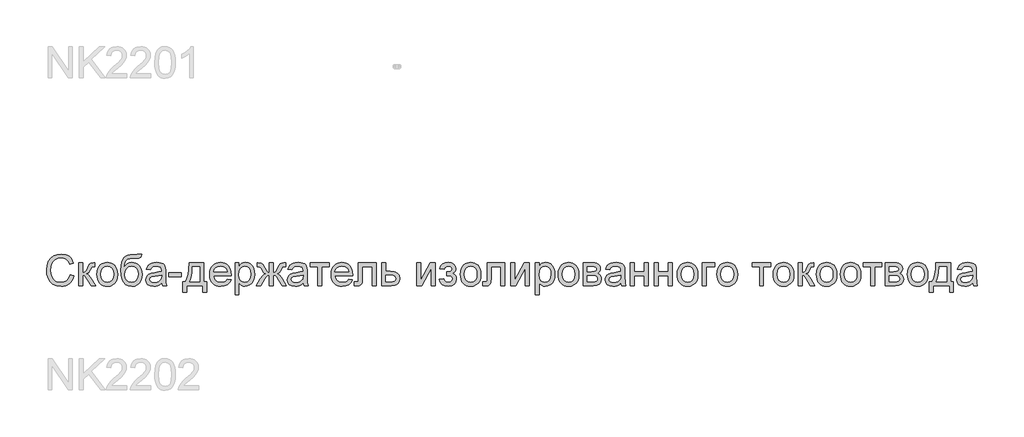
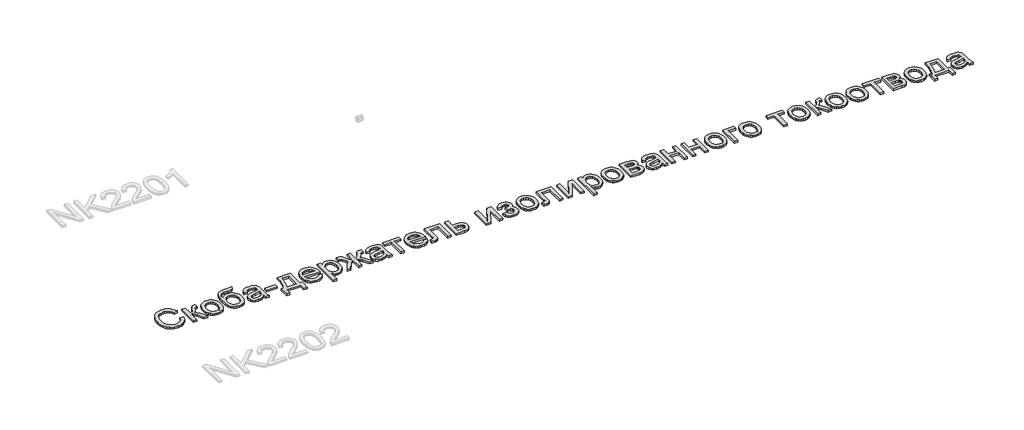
# One storey, part 18 of 124: 1 proxy.
"""IFC4 building model written with IfcOpenShell, lengths in millimetres."""

from ifc_helpers import new_model, si_unit, origin, origin_with_axes, place, context, project, spatial, polyline, outline, extrude, element, save

model = new_model("IFC4")

# Units and contexts
model_context = context("Model", 3, world=origin())
ifc_project = project(units=[si_unit("LENGTHUNIT", "METRE", prefix="MILLI")], contexts=[model_context])

# Site, building, storey
site = spatial("IfcSite", under=ifc_project)
building = spatial("IfcBuilding", under=site)
storey = spatial("IfcBuildingStorey", under=building, Name="Этаж 01", Elevation=0.0)

# Proxy
placement = place(None, origin())
element("IfcBuildingElementProxy", 1, Name="300", ObjectType="300", at=placement, inside=storey, context=model_context, shape_type="SweptSolid", body=[
    extrude(outline(polyline([(1511.7220969, -101441.7459169), (1549.3932132, -101451.4580016), (1541.9390043, -101474.8851869), (1532.0107889, -101495.3555206), (1519.6085672, -101512.8690029), (1504.732339, -101527.4256336), (1487.7177967, -101538.8690629), (1468.9006327, -101547.042941), (1448.2808468, -101551.9472678), (1425.8584392, -101553.5820434), (1382.1632553, -101548.6340306), (1347.4627861, -101533.7899921), (1320.8649178, -101509.5649627), (1301.4775367, -101476.4739772), (1289.6409335, -101437.5704562), (1285.6953991, -101395.9078203), (1290.1559683, -101351.964316), (1303.5376758, -101314.0172882), (1325.141546, -101283.2715504), (1354.268603, -101260.9319163), (1388.8127223, -101247.3294795), (1426.6677796, -101242.7953339), (1467.9717306, -101248.6630517), (1485.9404668, -101255.997699), (1502.1203768, -101266.2662052), (1516.2447462, -101279.1972573), (1528.0468605, -101294.5195424), (1544.6843237, -101332.3378115), (1507.0132074, -101341.3141322), (1493.9533965, -101313.8425442), (1476.1111198, -101294.997789), (1453.2656479, -101284.0992849), (1425.1962516, -101280.4664502), (1392.8410302, -101284.4947581), (1366.261556, -101296.5796816), (1346.0924256, -101315.4520279), (1332.9682355, -101339.8426042), (1325.7669454, -101367.4153598), (1323.3665154, -101395.8342439), (1326.2084038, -101430.6358806), (1334.734069, -101460.7286278), (1349.2654078, -101484.9628543), (1370.124317, -101502.1889287), (1395.1310956, -101512.4804275), (1422.1060429, -101515.9109271), (1453.5507564, -101511.2388258), (1479.7531515, -101497.2225218), (1499.5360058, -101474.0091679), (1511.7220969, -101441.7459169)])), origin_with_axes(), (0.0, 0.0, 1.0), 20.0),
    extrude(outline(polyline([(1596.4821086, -101327.5553456), (1634.1532249, -101327.5553456), (1634.1532249, -101421.7331364), (1649.47551, -101420.0408792), (1659.3899298, -101414.9641076), (1668.1639154, -101401.7203558), (1680.0648979, -101375.5271578), (1697.2449871, -101341.4980732), (1712.4017253, -101330.4248251), (1739.9560867, -101327.5553456), (1747.1665738, -101327.5553456), (1747.1665738, -101365.4471911), (1737.0130308, -101365.2264619), (1718.618931, -101369.1995874), (1705.6694848, -101393.9948339), (1690.4759584, -101420.8134314), (1669.1755909, -101433.9468186), (1681.1133616, -101439.2489178), (1692.9407677, -101448.6069161), (1716.2644862, -101479.4906096), (1756.5843529, -101548.8731539), (1713.7628887, -101548.8731539), (1674.2523624, -101480.9621376), (1654.3867346, -101452.2305538), (1645.0977143, -101447.0158265), (1634.1532249, -101445.277584), (1634.1532249, -101548.8731539), (1596.4821086, -101548.8731539), (1596.4821086, -101327.5553456)])), origin_with_axes(), (0.0, 0.0, 1.0), 20.0),
    extrude(outline(polyline([(1770.7110215, -101438.2142497), (1772.7481681, -101409.5516438), (1778.8596077, -101384.8529663), (1789.0453405, -101364.1182174), (1803.3053663, -101347.3473969), (1817.6619612, -101336.6282353), (1833.5084781, -101328.9716913), (1850.8449171, -101324.3777649), (1869.6712782, -101322.846456), (1890.4543117, -101324.7111579), (1909.2461839, -101330.3052635), (1926.0468947, -101339.6287728), (1940.8564443, -101352.6816859), (1952.9436671, -101369.0225442), (1961.5773977, -101388.2098895), (1966.757636, -101410.2437218), (1968.4843821, -101435.124041), (1965.4309616, -101473.1814334), (1956.2706999, -101502.1521405), (1941.2703115, -101523.8479812), (1920.696511, -101540.0807742), (1896.2599494, -101550.2067261), (1869.6712782, -101553.5820434), (1848.5847421, -101551.7242393), (1829.618126, -101546.1508271), (1812.7714299, -101536.8618067), (1798.0446538, -101523.8571782), (1786.0861897, -101507.3576707), (1777.5444296, -101487.5840135), (1772.4193735, -101464.5362065), (1770.7110215, -101438.2142497)]), holes=[polyline([(1808.3821378, -101438.1406733), (1812.7415395, -101472.2341372), (1825.8197444, -101496.523546), (1845.5014311, -101511.0640818), (1869.6712782, -101515.9109271), (1893.7307607, -101511.0364907), (1913.3756592, -101496.4131814), (1926.4538642, -101471.8018759), (1930.8132658, -101436.963451), (1926.426273, -101403.8632684), (1913.2652947, -101379.9049535), (1893.592805, -101365.3644176), (1869.6712782, -101360.5175724), (1845.5014311, -101365.3460235), (1825.8197444, -101379.8313771), (1812.7415395, -101404.0656035), (1808.3821378, -101438.1406733)])]), origin_with_axes(), (0.0, 0.0, 1.0), 20.0),
    extrude(outline(polyline([(2166.2577427, -101242.7953339), (2199.2199695, -101242.7953339), (2195.6515141, -101260.70199), (2189.5078848, -101272.1891053), (2180.9914166, -101278.9857252), (2170.3044447, -101282.820895), (2124.1720425, -101285.1753397), (2085.8663297, -101287.3458435), (2062.0367735, -101293.8573548), (2047.7813462, -101305.1513321), (2038.1980202, -101321.6692337), (2032.5602286, -101343.5398183), (2030.1414045, -101370.8918446), (2045.2889457, -101349.8489945), (2062.7725375, -101334.8394091), (2082.6105741, -101325.8446943), (2104.8214495, -101322.846456), (2125.3446663, -101324.7525446), (2144.0192761, -101330.4708104), (2160.8452789, -101340.0012533), (2175.8226746, -101353.3438734), (2188.1191303, -101369.9376507), (2196.9023129, -101389.221565), (2202.1722225, -101411.1956165), (2203.928859, -101435.859805), (2200.4431771, -101471.82027), (2189.9861314, -101500.6806125), (2174.7466198, -101523.1122172), (2156.9135401, -101539.7864686), (2134.3255856, -101550.1331497), (2104.8214495, -101553.5820434), (2070.8199561, -101549.1398683), (2045.3349309, -101535.8133431), (2026.5821462, -101515.5614392), (2012.7773743, -101490.3431285), (2004.2793003, -101452.3685095), (2001.4466089, -101393.8476811), (2003.2331358, -101354.1831043), (2008.5927167, -101321.5680661), (2017.5253513, -101296.0025667), (2030.0310399, -101277.486606), (2046.2431396, -101264.3693137), (2066.2950076, -101254.9998191), (2090.1866439, -101249.3781223), (2117.9180486, -101247.5042234), (2159.856596, -101246.6580948), (2166.2577427, -101242.7953339)]), holes=[polyline([(2166.2577427, -101434.6825826), (2162.1742526, -101405.0404908), (2149.9237821, -101381.3029051), (2130.2420954, -101365.7139055), (2103.8649564, -101360.5175724), (2076.3657772, -101366.0082111), (2065.2787336, -101372.8715096), (2055.9667206, -101382.4801275), (2043.329974, -101408.1306996), (2039.1177252, -101441.1573057), (2043.7714324, -101473.1722363), (2057.7325542, -101496.6706988), (2078.5178869, -101511.10087), (2103.6442272, -101515.9109271), (2128.8993261, -101510.3467119), (2148.8937126, -101493.6540664), (2161.9167352, -101467.7827651), (2166.2577427, -101434.6825826)])]), origin_with_axes(), (0.0, 0.0, 1.0), 20.0),
    extrude(outline(polyline([(2392.2844406, -101520.6198167), (2374.285814, -101536.0524664), (2355.7537584, -101546.1508271), (2336.2652098, -101551.7242393), (2315.3971036, -101553.5820434), (2283.9156018, -101549.1122772), (2260.6930509, -101535.7029785), (2246.3732442, -101515.34071), (2241.5999753, -101490.0120347), (2243.4025971, -101474.395444), (2248.8104625, -101460.213593), (2257.1521867, -101448.0734872), (2267.7563852, -101438.5821317), (2294.1335243, -101426.2212967), (2326.727869, -101420.555914), (2365.2451139, -101414.5962256), (2392.0637114, -101407.6064677), (2392.2844406, -101399.2187582), (2389.6908725, -101382.4065511), (2381.9101683, -101371.4068794), (2364.5093499, -101363.2398991), (2340.2659265, -101360.5175724), (2317.8251247, -101362.3293912), (2302.1533518, -101367.7648477), (2291.4663798, -101377.8172232), (2283.9799812, -101393.4797991), (2246.3088649, -101388.7709096), (2252.8479673, -101368.1695179), (2262.6060373, -101351.9827101), (2276.4935826, -101339.6034809), (2295.4211112, -101330.4248251), (2318.5700858, -101324.7410483), (2345.1219688, -101322.846456), (2370.5885999, -101324.5203191), (2390.7761244, -101329.5419084), (2405.9972419, -101337.0926863), (2416.5646523, -101346.3541155), (2423.5728043, -101357.8044426), (2428.1161469, -101371.9219142), (2429.9555569, -101404.884141), (2429.9555569, -101451.7523072), (2431.8685433, -101517.1985141), (2439.373336, -101548.8731539), (2401.7022196, -101548.8731539), (2392.2844406, -101520.6198167)]), holes=[polyline([(2392.2844406, -101445.277584), (2331.510335, -101456.8290787), (2299.0999312, -101462.9359198), (2284.4214396, -101472.8687337), (2279.2710917, -101487.3632843), (2282.0761919, -101498.565291), (2290.4914925, -101507.7439468), (2304.3330526, -101513.869182), (2323.4169311, -101515.9109271), (2343.6504408, -101513.6576499), (2361.5295058, -101506.8978182), (2376.0240564, -101496.9374132), (2386.1040231, -101485.0824159), (2390.5737893, -101472.8687337), (2392.0637114, -101455.9461619), (2392.2844406, -101445.277584)])]), origin_with_axes(), (0.0, 0.0, 1.0), 20.0),
    extrude(outline(polyline([(2462.9177836, -101459.4042527), (2462.9177836, -101421.7331364), (2580.6400221, -101421.7331364), (2580.6400221, -101459.4042527), (2462.9177836, -101459.4042527)])), origin_with_axes(), (0.0, 0.0, 1.0), 20.0),
    extrude(outline(polyline([(2655.9822547, -101327.5553456), (2797.2489409, -101327.5553456), (2797.2489409, -101511.2020376), (2825.5022781, -101511.2020376), (2825.5022781, -101610.0887179), (2787.8311618, -101610.0887179), (2787.8311618, -101548.8731539), (2632.437807, -101548.8731539), (2632.437807, -101610.0887179), (2594.7666907, -101610.0887179), (2594.7666907, -101511.2020376), (2618.3111384, -101511.2020376), (2635.4268482, -101480.2723588), (2647.4106042, -101439.3546839), (2654.2624064, -101388.4490128), (2655.9822547, -101327.5553456)]), holes=[polyline([(2688.9444815, -101365.2264619), (2685.8542727, -101411.349667), (2680.1153136, -101451.0533314), (2671.7276041, -101484.3374549), (2660.6911443, -101511.2020376), (2759.5778246, -101511.2020376), (2759.5778246, -101365.2264619), (2688.9444815, -101365.2264619)])]), origin_with_axes(), (0.0, 0.0, 1.0), 20.0),
    extrude(outline(polyline([(3022.8341803, -101482.9487003), (3059.7695326, -101487.6575899), (3046.4614014, -101515.4878628), (3025.2254133, -101536.2915897), (2996.5398147, -101549.25943), (2960.8828523, -101553.5820434), (2937.50855, -101551.7173416), (2916.6818306, -101546.123236), (2898.402694, -101536.7997267), (2882.6711401, -101523.7468136), (2870.020598, -101507.3277803), (2860.9844965, -101487.9059102), (2855.5628356, -101465.4812034), (2853.7556153, -101440.0536597), (2855.5812297, -101413.7638926), (2861.0580729, -101390.5919255), (2870.1861449, -101370.5377582), (2882.9654457, -101353.6013908), (2898.6556128, -101340.1461069), (2916.5162837, -101330.5351897), (2936.5474583, -101324.7686395), (2958.7491367, -101322.846456), (2980.2357445, -101324.7640409), (2999.6668117, -101330.5167956), (3017.0423381, -101340.1047201), (3032.362324, -101353.5278144), (3044.8680126, -101370.4273936), (3053.8006472, -101390.4447727), (3059.1602281, -101413.5799516), (3060.946755, -101439.8329305), (3060.7260258, -101449.9864736), (2891.4267316, -101449.9864736), (2897.94744, -101478.1846285), (2913.0949811, -101498.9147789), (2934.9563687, -101511.6618901), (2961.6186163, -101515.9109271), (2981.668185, -101513.9427584), (2998.5539686, -101508.0382524), (3012.275967, -101497.8295271), (3022.8341803, -101482.9487003)]), holes=[polyline([(2891.4267316, -101412.3153573), (3023.2756387, -101412.3153573), (3018.1804731, -101392.4129413), (3008.1924769, -101378.1759081), (2986.2299218, -101364.9321563), (2958.6019839, -101360.5175724), (2933.2089292, -101364.0400425), (2912.2120644, -101374.6074528), (2897.6163462, -101391.0793691), (2891.4267316, -101412.3153573)])]), origin_with_axes(), (0.0, 0.0, 1.0), 20.0),
    extrude(outline(polyline([(3098.6178713, -101633.6331656), (3098.6178713, -101327.5553456), (3136.2889876, -101327.5553456), (3136.2889876, -101364.4906979), (3148.5762463, -101346.2713421), (3162.3350329, -101333.2575165), (3178.3746879, -101325.4492212), (3197.5045516, -101322.846456), (3222.9803798, -101326.4884878), (3245.2556346, -101337.4145831), (3263.3922169, -101354.9625542), (3276.4520278, -101378.4702137), (3284.3430966, -101406.2269103), (3286.9734528, -101436.5219926), (3284.0028057, -101468.7392583), (3275.0908644, -101497.5536156), (3260.5227374, -101521.5027334), (3240.5835332, -101539.124281), (3217.3609823, -101549.9676028), (3192.9428149, -101553.5820434), (3175.62477, -101551.1632193), (3160.1645291, -101543.906747), (3146.9299743, -101532.9530605), (3136.2889876, -101519.4425943), (3136.2889876, -101633.6331656), (3098.6178713, -101633.6331656)]), holes=[polyline([(3136.2889876, -101439.9800833), (3140.3632807, -101473.7516505), (3152.58616, -101497.3696746), (3170.6215748, -101511.275614), (3192.1334745, -101515.9109271), (3213.994862, -101511.1100671), (3232.4901294, -101496.707487), (3245.0992847, -101472.2249402), (3249.3023365, -101437.1841801), (3245.2004523, -101403.596554), (3232.8947995, -101379.6474361), (3214.8869759, -101365.3000383), (3193.6785789, -101360.5175724), (3172.3874084, -101365.6035409), (3153.689806, -101380.8614467), (3140.6391922, -101405.813043), (3136.2889876, -101439.9800833)])]), origin_with_axes(), (0.0, 0.0, 1.0), 20.0),
    extrude(outline(polyline([(3465.9112553, -101327.5553456), (3465.9112553, -101421.7331364), (3479.2009924, -101419.7925588), (3487.8738104, -101413.9708263), (3508.6591431, -101373.6877478), (3521.6269835, -101348.5798016), (3533.4543896, -101335.0601383), (3547.8201815, -101329.4315438), (3568.6974847, -101327.5553456), (3583.6334938, -101327.5553456), (3583.6334938, -101365.4471911), (3573.2592215, -101365.2264619), (3553.8350521, -101369.126011), (3540.3705711, -101393.5533755), (3524.7355863, -101420.3351848), (3502.4051492, -101433.9468186), (3514.7981739, -101439.2489178), (3527.0348488, -101448.6069161), (3551.039149, -101479.4906096), (3593.0512728, -101548.8731539), (3549.8619266, -101548.8731539), (3508.5119903, -101480.4471028), (3497.208816, -101462.4852644), (3487.432352, -101452.0098246), (3477.5455234, -101446.9606442), (3465.9112553, -101445.277584), (3465.9112553, -101548.8731539), (3428.240139, -101548.8731539), (3428.240139, -101445.277584), (3416.6978414, -101446.923856), (3406.7926187, -101451.8626718), (3396.9425782, -101462.2645352), (3385.5658275, -101480.29995), (3344.2158913, -101548.8731539), (3301.1001215, -101548.8731539), (3342.9650925, -101479.4906096), (3367.1533337, -101448.6069161), (3379.4543879, -101439.2489178), (3391.8933979, -101433.9468186), (3377.5092119, -101426.7363315), (3368.2017974, -101418.9372332), (3347.8947112, -101380.3096237), (3337.9618974, -101367.5809067), (3321.7015132, -101365.0057327), (3310.5179005, -101365.2264619), (3310.5179005, -101327.5553456), (3316.1832833, -101327.5553456), (3349.2190864, -101329.9097904), (3366.3623874, -101339.9161806), (3385.5658275, -101373.6877478), (3406.1304311, -101413.7133089), (3414.8032491, -101419.7281795), (3428.240139, -101421.7331364), (3428.240139, -101327.5553456), (3465.9112553, -101327.5553456)])), origin_with_axes(), (0.0, 0.0, 1.0), 20.0),
    extrude(outline(polyline([(3753.1535171, -101520.6198167), (3735.1548905, -101536.0524664), (3716.622835, -101546.1508271), (3697.1342863, -101551.7242393), (3676.2661801, -101553.5820434), (3644.7846784, -101549.1122772), (3621.5621275, -101535.7029785), (3607.2423208, -101515.34071), (3602.4690519, -101490.0120347), (3604.2716737, -101474.395444), (3609.679539, -101460.213593), (3618.0212633, -101448.0734872), (3628.6254618, -101438.5821317), (3655.0026008, -101426.2212967), (3687.5969456, -101420.555914), (3726.1141905, -101414.5962256), (3752.9327879, -101407.6064677), (3753.1535171, -101399.2187582), (3750.5599491, -101382.4065511), (3742.7792449, -101371.4068794), (3725.3784265, -101363.2398991), (3701.135003, -101360.5175724), (3678.6942013, -101362.3293912), (3663.0224283, -101367.7648477), (3652.3354564, -101377.8172232), (3644.8490577, -101393.4797991), (3607.1779414, -101388.7709096), (3613.7170439, -101368.1695179), (3623.4751138, -101351.9827101), (3637.3626591, -101339.6034809), (3656.2901878, -101330.4248251), (3679.4391623, -101324.7410483), (3705.9910453, -101322.846456), (3731.4576765, -101324.5203191), (3751.6452009, -101329.5419084), (3766.8663185, -101337.0926863), (3777.4337288, -101346.3541155), (3784.4418808, -101357.8044426), (3788.9852235, -101371.9219142), (3790.8246334, -101404.884141), (3790.8246334, -101451.7523072), (3792.7376198, -101517.1985141), (3800.2424125, -101548.8731539), (3762.5712962, -101548.8731539), (3753.1535171, -101520.6198167)]), holes=[polyline([(3753.1535171, -101445.277584), (3692.3794115, -101456.8290787), (3659.9690078, -101462.9359198), (3645.2905161, -101472.8687337), (3640.1401682, -101487.3632843), (3642.9452684, -101498.565291), (3651.3605691, -101507.7439468), (3665.2021291, -101513.869182), (3684.2860076, -101515.9109271), (3704.5195174, -101513.6576499), (3722.3985823, -101506.8978182), (3736.8931329, -101496.9374132), (3746.9730996, -101485.0824159), (3751.4428659, -101472.8687337), (3752.9327879, -101455.9461619), (3753.1535171, -101445.277584)])]), origin_with_axes(), (0.0, 0.0, 1.0), 20.0),
    extrude(outline(polyline([(3823.7868602, -101327.5553456), (4002.7246627, -101327.5553456), (4002.7246627, -101365.2264619), (3932.0913196, -101365.2264619), (3932.0913196, -101548.8731539), (3894.4202033, -101548.8731539), (3894.4202033, -101365.2264619), (3823.7868602, -101365.2264619), (3823.7868602, -101327.5553456)])), origin_with_axes(), (0.0, 0.0, 1.0), 20.0),
    extrude(outline(polyline([(4190.6387858, -101482.9487003), (4227.5741381, -101487.6575899), (4214.2660069, -101515.4878628), (4193.0300188, -101536.2915897), (4164.3444202, -101549.25943), (4128.6874578, -101553.5820434), (4105.3131555, -101551.7173416), (4084.4864361, -101546.123236), (4066.2072994, -101536.7997267), (4050.4757456, -101523.7468136), (4037.8252035, -101507.3277803), (4028.789102, -101487.9059102), (4023.3674411, -101465.4812034), (4021.5602208, -101440.0536597), (4023.3858352, -101413.7638926), (4028.8626784, -101390.5919255), (4037.9907504, -101370.5377582), (4050.7700512, -101353.6013908), (4066.4602183, -101340.1461069), (4084.3208892, -101330.5351897), (4104.3520638, -101324.7686395), (4126.5537422, -101322.846456), (4148.04035, -101324.7640409), (4167.4714171, -101330.5167956), (4184.8469436, -101340.1047201), (4200.1669295, -101353.5278144), (4212.672618, -101370.4273936), (4221.6052527, -101390.4447727), (4226.9648336, -101413.5799516), (4228.7513605, -101439.8329305), (4228.5306313, -101449.9864736), (4059.2313371, -101449.9864736), (4065.7520455, -101478.1846285), (4080.8995866, -101498.9147789), (4102.7609742, -101511.6618901), (4129.4232218, -101515.9109271), (4149.4727905, -101513.9427584), (4166.3585741, -101508.0382524), (4180.0805725, -101497.8295271), (4190.6387858, -101482.9487003)]), holes=[polyline([(4059.2313371, -101412.3153573), (4191.0802442, -101412.3153573), (4185.9850786, -101392.4129413), (4175.9970824, -101378.1759081), (4154.0345273, -101364.9321563), (4126.4065894, -101360.5175724), (4101.0135347, -101364.0400425), (4080.0166698, -101374.6074528), (4065.4209517, -101391.0793691), (4059.2313371, -101412.3153573)])]), origin_with_axes(), (0.0, 0.0, 1.0), 20.0),
    extrude(outline(polyline([(4285.258035, -101327.5553456), (4454.7780583, -101327.5553456), (4454.7780583, -101548.6524247), (4417.106942, -101548.6524247), (4417.106942, -101365.2264619), (4322.9291513, -101365.2264619), (4322.9291513, -101470.8085945), (4320.3907655, -101519.5161707), (4315.6358907, -101530.5434335), (4306.4480379, -101540.0807742), (4292.5053103, -101546.675059), (4273.4858111, -101548.8731539), (4242.8780291, -101546.9601675), (4242.8780291, -101511.2020376), (4259.7270245, -101511.2020376), (4276.7599609, -101508.884381), (4283.5657778, -101501.5267411), (4285.258035, -101468.6748789), (4285.258035, -101327.5553456)])), origin_with_axes(), (0.0, 0.0, 1.0), 20.0),
    extrude(outline(polyline([(4511.2847328, -101327.5553456), (4548.9558491, -101327.5553456), (4548.9558491, -101407.6064677), (4592.3659245, -101407.6064677), (4630.0002526, -101412.3245543), (4645.1477938, -101418.2221626), (4657.8489197, -101426.4788141), (4667.8920981, -101436.8094004), (4675.065797, -101448.9288128), (4680.8047562, -101478.5341164), (4675.9211227, -101505.4906696), (4661.2702222, -101528.234974), (4650.0383251, -101537.2641777), (4635.8771675, -101543.7136089), (4598.7670712, -101548.8731539), (4511.2847328, -101548.8731539), (4511.2847328, -101327.5553456)]), holes=[polyline([(4548.9558491, -101511.2020376), (4584.1253678, -101511.2020376), (4611.4130148, -101509.2246719), (4629.5587942, -101503.2925747), (4639.7399285, -101493.1666228), (4643.1336399, -101478.6076928), (4640.6228452, -101466.3020401), (4633.0904614, -101455.4311271), (4616.9496389, -101447.8159698), (4588.6135282, -101445.277584), (4548.9558491, -101445.277584), (4548.9558491, -101511.2020376)])]), origin_with_axes(), (0.0, 0.0, 1.0), 20.0),
    extrude(outline(polyline([(4845.61589, -101327.5553456), (4883.2870063, -101327.5553456), (4883.2870063, -101496.339605), (4975.8461163, -101327.5553456), (5024.5536925, -101327.5553456), (5024.5536925, -101548.8731539), (4986.8825762, -101548.8731539), (4986.8825762, -101381.1189641), (4894.9120774, -101548.8731539), (4845.61589, -101548.8731539), (4845.61589, -101327.5553456)])), origin_with_axes(), (0.0, 0.0, 1.0), 20.0),
    extrude(outline(polyline([(5132.8581518, -101449.9864736), (5132.8581518, -101412.3153573), (5162.5830171, -101410.8438293), (5177.5926025, -101403.0079428), (5182.8901032, -101395.6594999), (5184.6559368, -101386.637194), (5182.2922949, -101375.9226309), (5175.2013695, -101367.6176949), (5164.3764418, -101362.292603), (5150.8107932, -101360.5175724), (5137.0979918, -101362.2834059), (5125.6108765, -101367.5809067), (5116.3494473, -101376.4100745), (5109.3137041, -101388.7709096), (5066.9336983, -101384.06202), (5078.1724933, -101357.2802108), (5095.2606119, -101338.150347), (5118.1980543, -101326.6724288), (5146.9848205, -101322.846456), (5178.4755192, -101327.5093603), (5202.3142725, -101341.4980732), (5217.3238579, -101361.9615092), (5222.3270531, -101386.0485828), (5220.5474239, -101398.4094179), (5215.2085365, -101409.4458777), (5206.3103907, -101419.1579624), (5193.8529866, -101427.5456719), (5208.3935225, -101438.0119146), (5218.7585977, -101451.0165432), (5224.9666064, -101466.5963457), (5227.0359426, -101484.7881103), (5221.7844271, -101512.5172157), (5206.0298807, -101534.4889679), (5180.8391611, -101548.8087745), (5147.2791261, -101553.5820434), (5114.454855, -101549.1674595), (5089.3377118, -101535.9237077), (5071.9276964, -101513.8507879), (5062.2248088, -101482.9487003), (5104.6048146, -101478.2398108), (5110.950779, -101494.1691012), (5121.6009628, -101506.0516896), (5135.3229612, -101513.4461177), (5150.8843696, -101515.9109271), (5166.0411078, -101513.5472853), (5178.4019428, -101506.4563598), (5186.6241054, -101495.6866144), (5189.3648263, -101482.2865128), (5187.6633721, -101471.6731172), (5182.5590094, -101462.4944614), (5168.0644588, -101451.89946), (5140.2157917, -101449.7657444), (5132.8581518, -101449.9864736)])), origin_with_axes(), (0.0, 0.0, 1.0), 20.0),
    extrude(outline(polyline([(5264.7070589, -101438.2142497), (5266.7442055, -101409.5516438), (5272.8556451, -101384.8529663), (5283.0413778, -101364.1182174), (5297.3014037, -101347.3473969), (5311.6579985, -101336.6282353), (5327.5045155, -101328.9716913), (5344.8409545, -101324.3777649), (5363.6673156, -101322.846456), (5384.4503491, -101324.7111579), (5403.2422212, -101330.3052635), (5420.0429321, -101339.6287728), (5434.8524817, -101352.6816859), (5446.9397045, -101369.0225442), (5455.5734351, -101388.2098895), (5460.7536734, -101410.2437218), (5462.4804195, -101435.124041), (5459.426999, -101473.1814334), (5450.2667373, -101502.1521405), (5435.2663489, -101523.8479812), (5414.6925483, -101540.0807742), (5390.2559868, -101550.2067261), (5363.6673156, -101553.5820434), (5342.5807795, -101551.7242393), (5323.6141634, -101546.1508271), (5306.7674673, -101536.8618067), (5292.0406912, -101523.8571782), (5280.082227, -101507.3576707), (5271.540467, -101487.5840135), (5266.4154109, -101464.5362065), (5264.7070589, -101438.2142497)]), holes=[polyline([(5302.3781752, -101438.1406733), (5306.7375769, -101472.2341372), (5319.8157818, -101496.523546), (5339.4974685, -101511.0640818), (5363.6673156, -101515.9109271), (5387.7267981, -101511.0364907), (5407.3716966, -101496.4131814), (5420.4499016, -101471.8018759), (5424.8093032, -101436.963451), (5420.4223104, -101403.8632684), (5407.261332, -101379.9049535), (5387.5888424, -101365.3644176), (5363.6673156, -101360.5175724), (5339.4974685, -101365.3460235), (5319.8157818, -101379.8313771), (5306.7375769, -101404.0656035), (5302.3781752, -101438.1406733)])]), origin_with_axes(), (0.0, 0.0, 1.0), 20.0),
    extrude(outline(polyline([(5523.6959835, -101327.5553456), (5693.2160069, -101327.5553456), (5693.2160069, -101548.6524247), (5655.5448906, -101548.6524247), (5655.5448906, -101365.2264619), (5561.3670998, -101365.2264619), (5561.3670998, -101470.8085945), (5558.8287141, -101519.5161707), (5554.0738393, -101530.5434335), (5544.8859864, -101540.0807742), (5530.9432588, -101546.675059), (5511.9237597, -101548.8731539), (5481.3159777, -101546.9601675), (5481.3159777, -101511.2020376), (5498.1649731, -101511.2020376), (5515.1979094, -101508.884381), (5522.0037263, -101501.5267411), (5523.6959835, -101468.6748789), (5523.6959835, -101327.5553456)])), origin_with_axes(), (0.0, 0.0, 1.0), 20.0),
    extrude(outline(polyline([(5749.7226814, -101327.5553456), (5787.3937977, -101327.5553456), (5787.3937977, -101496.339605), (5879.9529076, -101327.5553456), (5928.6604838, -101327.5553456), (5928.6604838, -101548.8731539), (5890.9893675, -101548.8731539), (5890.9893675, -101381.1189641), (5799.0188687, -101548.8731539), (5749.7226814, -101548.8731539), (5749.7226814, -101327.5553456)])), origin_with_axes(), (0.0, 0.0, 1.0), 20.0),
    extrude(outline(polyline([(5985.1671583, -101633.6331656), (5985.1671583, -101327.5553456), (6022.8382746, -101327.5553456), (6022.8382746, -101364.4906979), (6035.1255332, -101346.2713421), (6048.8843198, -101333.2575165), (6064.9239748, -101325.4492212), (6084.0538386, -101322.846456), (6109.5296667, -101326.4884878), (6131.8049215, -101337.4145831), (6149.9415039, -101354.9625542), (6163.0013147, -101378.4702137), (6170.8923835, -101406.2269103), (6173.5227398, -101436.5219926), (6170.5520927, -101468.7392583), (6161.6401514, -101497.5536156), (6147.0720243, -101521.5027334), (6127.1328202, -101539.124281), (6103.9102693, -101549.9676028), (6079.4921018, -101553.5820434), (6062.1740569, -101551.1632193), (6046.7138161, -101543.906747), (6033.4792613, -101532.9530605), (6022.8382746, -101519.4425943), (6022.8382746, -101633.6331656), (5985.1671583, -101633.6331656)]), holes=[polyline([(6022.8382746, -101439.9800833), (6026.9125677, -101473.7516505), (6039.135447, -101497.3696746), (6057.1708618, -101511.275614), (6078.6827614, -101515.9109271), (6100.544149, -101511.1100671), (6119.0394163, -101496.707487), (6131.6485717, -101472.2249402), (6135.8516235, -101437.1841801), (6131.7497392, -101403.596554), (6119.4440865, -101379.6474361), (6101.4362628, -101365.3000383), (6080.2278658, -101360.5175724), (6058.9366953, -101365.6035409), (6040.2390929, -101380.8614467), (6027.1884792, -101405.813043), (6022.8382746, -101439.9800833)])]), origin_with_axes(), (0.0, 0.0, 1.0), 20.0),
    extrude(outline(polyline([(6206.4849666, -101438.2142497), (6208.5221131, -101409.5516438), (6214.6335528, -101384.8529663), (6224.8192855, -101364.1182174), (6239.0793113, -101347.3473969), (6253.4359062, -101336.6282353), (6269.2824231, -101328.9716913), (6286.6188622, -101324.3777649), (6305.4452233, -101322.846456), (6326.2282567, -101324.7111579), (6345.0201289, -101330.3052635), (6361.8208398, -101339.6287728), (6376.6303893, -101352.6816859), (6388.7176121, -101369.0225442), (6397.3513427, -101388.2098895), (6402.5315811, -101410.2437218), (6404.2583272, -101435.124041), (6401.2049066, -101473.1814334), (6392.0446449, -101502.1521405), (6377.0442566, -101523.8479812), (6356.470456, -101540.0807742), (6332.0338945, -101550.2067261), (6305.4452233, -101553.5820434), (6284.3586872, -101551.7242393), (6265.392071, -101546.1508271), (6248.5453749, -101536.8618067), (6233.8185988, -101523.8571782), (6221.8601347, -101507.3576707), (6213.3183746, -101487.5840135), (6208.1933186, -101464.5362065), (6206.4849666, -101438.2142497)]), holes=[polyline([(6244.1560829, -101438.1406733), (6248.5154845, -101472.2341372), (6261.5936894, -101496.523546), (6281.2753762, -101511.0640818), (6305.4452233, -101515.9109271), (6329.5047058, -101511.0364907), (6349.1496043, -101496.4131814), (6362.2278092, -101471.8018759), (6366.5872109, -101436.963451), (6362.2002181, -101403.8632684), (6349.0392397, -101379.9049535), (6329.36675, -101365.3644176), (6305.4452233, -101360.5175724), (6281.2753762, -101365.3460235), (6261.5936894, -101379.8313771), (6248.5154845, -101404.0656035), (6244.1560829, -101438.1406733)])]), origin_with_axes(), (0.0, 0.0, 1.0), 20.0),
    extrude(outline(polyline([(6446.638333, -101327.5553456), (6529.6325111, -101327.5553456), (6556.3131528, -101328.8153414), (6575.1395139, -101332.5953289), (6588.990271, -101339.7322396), (6600.7441008, -101351.0630051), (6608.7731253, -101365.8242701), (6611.4494669, -101383.2526797), (6609.8307861, -101397.2965748), (6604.9747437, -101409.4090895), (6596.8629457, -101419.645406), (6585.476998, -101428.0607067), (6599.4197256, -101435.8873961), (6610.7872793, -101448.4781574), (6618.3472543, -101464.8397091), (6620.8672459, -101483.9787699), (6614.4844933, -101512.6919597), (6599.309361, -101532.9070753), (6575.2866667, -101544.8816342), (6542.3612282, -101548.8731539), (6446.638333, -101548.8731539), (6446.638333, -101327.5553456)]), holes=[polyline([(6484.3094493, -101412.3153573), (6521.5391072, -101412.3153573), (6552.2572538, -101410.4023709), (6567.1932628, -101402.7504254), (6572.1320786, -101396.4228551), (6573.7783505, -101388.9180624), (6570.8904769, -101377.6792674), (6562.2268559, -101370.4503862), (6546.573477, -101366.532443), (6522.7163296, -101365.2264619), (6484.3094493, -101365.2264619), (6484.3094493, -101412.3153573)]), polyline([(6484.3094493, -101511.2020376), (6530.5154279, -101511.2020376), (6555.6969505, -101509.5005834), (6571.4974822, -101504.3962207), (6579.9771622, -101495.1163973), (6583.1961296, -101480.8885612), (6581.5866459, -101471.4615851), (6576.7581947, -101462.7519788), (6569.3453725, -101455.9369649), (6559.9827757, -101452.1937656), (6526.836608, -101449.9864736), (6484.3094493, -101449.9864736), (6484.3094493, -101511.2020376)])]), origin_with_axes(), (0.0, 0.0, 1.0), 20.0),
    extrude(outline(polyline([(6809.2228275, -101520.6198167), (6791.2242008, -101536.0524664), (6772.6921453, -101546.1508271), (6753.2035966, -101551.7242393), (6732.3354905, -101553.5820434), (6700.8539887, -101549.1122772), (6677.6314378, -101535.7029785), (6663.3116311, -101515.34071), (6658.5383622, -101490.0120347), (6660.340984, -101474.395444), (6665.7488493, -101460.213593), (6674.0905736, -101448.0734872), (6684.6947721, -101438.5821317), (6711.0719111, -101426.2212967), (6743.6662559, -101420.555914), (6782.1835008, -101414.5962256), (6809.0020983, -101407.6064677), (6809.2228275, -101399.2187582), (6806.6292594, -101382.4065511), (6798.8485552, -101371.4068794), (6781.4477368, -101363.2398991), (6757.2043133, -101360.5175724), (6734.7635116, -101362.3293912), (6719.0917386, -101367.7648477), (6708.4047667, -101377.8172232), (6700.9183681, -101393.4797991), (6663.2472518, -101388.7709096), (6669.7863542, -101368.1695179), (6679.5444242, -101351.9827101), (6693.4319695, -101339.6034809), (6712.3594981, -101330.4248251), (6735.5084727, -101324.7410483), (6762.0603557, -101322.846456), (6787.5269868, -101324.5203191), (6807.7145113, -101329.5419084), (6822.9356288, -101337.0926863), (6833.5030391, -101346.3541155), (6840.5111912, -101357.8044426), (6845.0545338, -101371.9219142), (6846.8939438, -101404.884141), (6846.8939438, -101451.7523072), (6848.8069301, -101517.1985141), (6856.3117228, -101548.8731539), (6818.6406065, -101548.8731539), (6809.2228275, -101520.6198167)]), holes=[polyline([(6809.2228275, -101445.277584), (6748.4487219, -101456.8290787), (6716.0383181, -101462.9359198), (6701.3598265, -101472.8687337), (6696.2094785, -101487.3632843), (6699.0145788, -101498.565291), (6707.4298794, -101507.7439468), (6721.2714395, -101513.869182), (6740.355318, -101515.9109271), (6760.5888277, -101513.6576499), (6778.4678927, -101506.8978182), (6792.9624433, -101496.9374132), (6803.0424099, -101485.0824159), (6807.5121762, -101472.8687337), (6809.0020983, -101455.9461619), (6809.2228275, -101445.277584)])]), origin_with_axes(), (0.0, 0.0, 1.0), 20.0),
    extrude(outline(polyline([(6898.6917287, -101327.5553456), (6936.362845, -101327.5553456), (6936.362845, -101412.3153573), (7035.2495253, -101412.3153573), (7035.2495253, -101327.5553456), (7072.9206416, -101327.5553456), (7072.9206416, -101548.8731539), (7035.2495253, -101548.8731539), (7035.2495253, -101449.9864736), (6936.362845, -101449.9864736), (6936.362845, -101548.8731539), (6898.6917287, -101548.8731539), (6898.6917287, -101327.5553456)])), origin_with_axes(), (0.0, 0.0, 1.0), 20.0),
    extrude(outline(polyline([(7129.4273161, -101327.5553456), (7167.0984324, -101327.5553456), (7167.0984324, -101412.3153573), (7265.9851127, -101412.3153573), (7265.9851127, -101327.5553456), (7303.656229, -101327.5553456), (7303.656229, -101548.8731539), (7265.9851127, -101548.8731539), (7265.9851127, -101449.9864736), (7167.0984324, -101449.9864736), (7167.0984324, -101548.8731539), (7129.4273161, -101548.8731539), (7129.4273161, -101327.5553456)])), origin_with_axes(), (0.0, 0.0, 1.0), 20.0),
    extrude(outline(polyline([(7350.7451244, -101438.2142497), (7352.7822709, -101409.5516438), (7358.8937106, -101384.8529663), (7369.0794433, -101364.1182174), (7383.3394691, -101347.3473969), (7397.696064, -101336.6282353), (7413.5425809, -101328.9716913), (7430.87902, -101324.3777649), (7449.7053811, -101322.846456), (7470.4884145, -101324.7111579), (7489.2802867, -101330.3052635), (7506.0809976, -101339.6287728), (7520.8905471, -101352.6816859), (7532.9777699, -101369.0225442), (7541.6115005, -101388.2098895), (7546.7917389, -101410.2437218), (7548.518485, -101435.124041), (7545.4650644, -101473.1814334), (7536.3048027, -101502.1521405), (7521.3044144, -101523.8479812), (7500.7306138, -101540.0807742), (7476.2940523, -101550.2067261), (7449.7053811, -101553.5820434), (7428.618845, -101551.7242393), (7409.6522288, -101546.1508271), (7392.8055327, -101536.8618067), (7378.0787566, -101523.8571782), (7366.1202925, -101507.3576707), (7357.5785324, -101487.5840135), (7352.4534764, -101464.5362065), (7350.7451244, -101438.2142497)]), holes=[polyline([(7388.4162407, -101438.1406733), (7392.7756423, -101472.2341372), (7405.8538472, -101496.523546), (7425.535534, -101511.0640818), (7449.7053811, -101515.9109271), (7473.7648635, -101511.0364907), (7493.4097621, -101496.4131814), (7506.487967, -101471.8018759), (7510.8473687, -101436.963451), (7506.4603759, -101403.8632684), (7493.2993975, -101379.9049535), (7473.6269078, -101365.3644176), (7449.7053811, -101360.5175724), (7425.535534, -101365.3460235), (7405.8538472, -101379.8313771), (7392.7756423, -101404.0656035), (7388.4162407, -101438.1406733)])]), origin_with_axes(), (0.0, 0.0, 1.0), 20.0),
    extrude(outline(polyline([(7590.8984908, -101327.5553456), (7713.3296188, -101327.5553456), (7713.3296188, -101365.2264619), (7628.5696071, -101365.2264619), (7628.5696071, -101548.8731539), (7590.8984908, -101548.8731539), (7590.8984908, -101327.5553456)])), origin_with_axes(), (0.0, 0.0, 1.0), 20.0),
    extrude(outline(polyline([(7732.165177, -101438.2142497), (7734.2023235, -101409.5516438), (7740.3137632, -101384.8529663), (7750.4994959, -101364.1182174), (7764.7595217, -101347.3473969), (7779.1161166, -101336.6282353), (7794.9626335, -101328.9716913), (7812.2990726, -101324.3777649), (7831.1254337, -101322.846456), (7851.9084671, -101324.7111579), (7870.7003393, -101330.3052635), (7887.5010502, -101339.6287728), (7902.3105997, -101352.6816859), (7914.3978225, -101369.0225442), (7923.0315531, -101388.2098895), (7928.2117915, -101410.2437218), (7929.9385376, -101435.124041), (7926.885117, -101473.1814334), (7917.7248553, -101502.1521405), (7902.724467, -101523.8479812), (7882.1506664, -101540.0807742), (7857.7141049, -101550.2067261), (7831.1254337, -101553.5820434), (7810.0388976, -101551.7242393), (7791.0722814, -101546.1508271), (7774.2255853, -101536.8618067), (7759.4988092, -101523.8571782), (7747.5403451, -101507.3576707), (7738.998585, -101487.5840135), (7733.873529, -101464.5362065), (7732.165177, -101438.2142497)]), holes=[polyline([(7769.8362933, -101438.1406733), (7774.1956949, -101472.2341372), (7787.2738998, -101496.523546), (7806.9555866, -101511.0640818), (7831.1254337, -101515.9109271), (7855.1849161, -101511.0364907), (7874.8298147, -101496.4131814), (7887.9080196, -101471.8018759), (7892.2674213, -101436.963451), (7887.8804285, -101403.8632684), (7874.7194501, -101379.9049535), (7855.0469604, -101365.3644176), (7831.1254337, -101360.5175724), (7806.9555866, -101365.3460235), (7787.2738998, -101379.8313771), (7774.1956949, -101404.0656035), (7769.8362933, -101438.1406733)])]), origin_with_axes(), (0.0, 0.0, 1.0), 20.0),
    extrude(outline(polyline([(8071.2052237, -101327.5553456), (8250.1430262, -101327.5553456), (8250.1430262, -101365.2264619), (8179.5096831, -101365.2264619), (8179.5096831, -101548.8731539), (8141.8385668, -101548.8731539), (8141.8385668, -101365.2264619), (8071.2052237, -101365.2264619), (8071.2052237, -101327.5553456)])), origin_with_axes(), (0.0, 0.0, 1.0), 20.0),
    extrude(outline(polyline([(8273.6874739, -101438.2142497), (8275.7246204, -101409.5516438), (8281.8360601, -101384.8529663), (8292.0217928, -101364.1182174), (8306.2818186, -101347.3473969), (8320.6384135, -101336.6282353), (8336.4849304, -101328.9716913), (8353.8213695, -101324.3777649), (8372.6477306, -101322.846456), (8393.430764, -101324.7111579), (8412.2226362, -101330.3052635), (8429.0233471, -101339.6287728), (8443.8328966, -101352.6816859), (8455.9201194, -101369.0225442), (8464.55385, -101388.2098895), (8469.7340884, -101410.2437218), (8471.4608345, -101435.124041), (8468.4074139, -101473.1814334), (8459.2471522, -101502.1521405), (8444.2467639, -101523.8479812), (8423.6729633, -101540.0807742), (8399.2364018, -101550.2067261), (8372.6477306, -101553.5820434), (8351.5611945, -101551.7242393), (8332.5945783, -101546.1508271), (8315.7478822, -101536.8618067), (8301.0211061, -101523.8571782), (8289.062642, -101507.3576707), (8280.5208819, -101487.5840135), (8275.3958259, -101464.5362065), (8273.6874739, -101438.2142497)]), holes=[polyline([(8311.3585902, -101438.1406733), (8315.7179918, -101472.2341372), (8328.7961967, -101496.523546), (8348.4778835, -101511.0640818), (8372.6477306, -101515.9109271), (8396.707213, -101511.0364907), (8416.3521116, -101496.4131814), (8429.4303165, -101471.8018759), (8433.7897182, -101436.963451), (8429.4027254, -101403.8632684), (8416.241747, -101379.9049535), (8396.5692573, -101365.3644176), (8372.6477306, -101360.5175724), (8348.4778835, -101365.3460235), (8328.7961967, -101379.8313771), (8315.7179918, -101404.0656035), (8311.3585902, -101438.1406733)])]), origin_with_axes(), (0.0, 0.0, 1.0), 20.0),
    extrude(outline(polyline([(8513.8408403, -101327.5553456), (8551.5119566, -101327.5553456), (8551.5119566, -101421.7331364), (8566.8342417, -101420.0408792), (8576.7486615, -101414.9641076), (8585.5226471, -101401.7203558), (8597.4236296, -101375.5271578), (8614.6037188, -101341.4980732), (8629.760457, -101330.4248251), (8657.3148184, -101327.5553456), (8664.5253055, -101327.5553456), (8664.5253055, -101365.4471911), (8654.3717625, -101365.2264619), (8635.9776627, -101369.1995874), (8623.0282165, -101393.9948339), (8607.8346901, -101420.8134314), (8586.5343226, -101433.9468186), (8598.4720933, -101439.2489178), (8610.2994994, -101448.6069161), (8633.6232179, -101479.4906096), (8673.9430846, -101548.8731539), (8631.1216204, -101548.8731539), (8591.6110941, -101480.9621376), (8571.7454664, -101452.2305538), (8562.456446, -101447.0158265), (8551.5119566, -101445.277584), (8551.5119566, -101548.8731539), (8513.8408403, -101548.8731539), (8513.8408403, -101327.5553456)])), origin_with_axes(), (0.0, 0.0, 1.0), 20.0),
    extrude(outline(polyline([(8688.0697532, -101438.2142497), (8690.1068998, -101409.5516438), (8696.2183394, -101384.8529663), (8706.4040722, -101364.1182174), (8720.664098, -101347.3473969), (8735.0206929, -101336.6282353), (8750.8672098, -101328.9716913), (8768.2036488, -101324.3777649), (8787.0300099, -101322.846456), (8807.8130434, -101324.7111579), (8826.6049156, -101330.3052635), (8843.4056264, -101339.6287728), (8858.215176, -101352.6816859), (8870.3023988, -101369.0225442), (8878.9361294, -101388.2098895), (8884.1163677, -101410.2437218), (8885.8431138, -101435.124041), (8882.7896933, -101473.1814334), (8873.6294316, -101502.1521405), (8858.6290432, -101523.8479812), (8838.0552427, -101540.0807742), (8813.6186811, -101550.2067261), (8787.0300099, -101553.5820434), (8765.9434738, -101551.7242393), (8746.9768577, -101546.1508271), (8730.1301616, -101536.8618067), (8715.4033855, -101523.8571782), (8703.4449214, -101507.3576707), (8694.9031613, -101487.5840135), (8689.7781052, -101464.5362065), (8688.0697532, -101438.2142497)]), holes=[polyline([(8725.7408695, -101438.1406733), (8730.1002712, -101472.2341372), (8743.1784761, -101496.523546), (8762.8601628, -101511.0640818), (8787.0300099, -101515.9109271), (8811.0894924, -101511.0364907), (8830.734391, -101496.4131814), (8843.8125959, -101471.8018759), (8848.1719975, -101436.963451), (8843.7850047, -101403.8632684), (8830.6240264, -101379.9049535), (8810.9515367, -101365.3644176), (8787.0300099, -101360.5175724), (8762.8601628, -101365.3460235), (8743.1784761, -101379.8313771), (8730.1002712, -101404.0656035), (8725.7408695, -101438.1406733)])]), origin_with_axes(), (0.0, 0.0, 1.0), 20.0),
    extrude(outline(polyline([(8918.8053406, -101438.2142497), (8920.8424872, -101409.5516438), (8926.9539268, -101384.8529663), (8937.1396595, -101364.1182174), (8951.3996854, -101347.3473969), (8965.7562802, -101336.6282353), (8981.6027972, -101328.9716913), (8998.9392362, -101324.3777649), (9017.7655973, -101322.846456), (9038.5486308, -101324.7111579), (9057.3405029, -101330.3052635), (9074.1412138, -101339.6287728), (9088.9507634, -101352.6816859), (9101.0379862, -101369.0225442), (9109.6717168, -101388.2098895), (9114.8519551, -101410.2437218), (9116.5787012, -101435.124041), (9113.5252807, -101473.1814334), (9104.365019, -101502.1521405), (9089.3646306, -101523.8479812), (9068.79083, -101540.0807742), (9044.3542685, -101550.2067261), (9017.7655973, -101553.5820434), (8996.6790612, -101551.7242393), (8977.7124451, -101546.1508271), (8960.865749, -101536.8618067), (8946.1389728, -101523.8571782), (8934.1805087, -101507.3576707), (8925.6387487, -101487.5840135), (8920.5136926, -101464.5362065), (8918.8053406, -101438.2142497)]), holes=[polyline([(8956.4764569, -101438.1406733), (8960.8358586, -101472.2341372), (8973.9140635, -101496.523546), (8993.5957502, -101511.0640818), (9017.7655973, -101515.9109271), (9041.8250798, -101511.0364907), (9061.4699783, -101496.4131814), (9074.5481833, -101471.8018759), (9078.9075849, -101436.963451), (9074.5205921, -101403.8632684), (9061.3596137, -101379.9049535), (9041.687124, -101365.3644176), (9017.7655973, -101360.5175724), (8993.5957502, -101365.3460235), (8973.9140635, -101379.8313771), (8960.8358586, -101404.0656035), (8956.4764569, -101438.1406733)])]), origin_with_axes(), (0.0, 0.0, 1.0), 20.0),
    extrude(outline(polyline([(9140.1231489, -101327.5553456), (9319.0609514, -101327.5553456), (9319.0609514, -101365.2264619), (9248.4276083, -101365.2264619), (9248.4276083, -101548.8731539), (9210.756492, -101548.8731539), (9210.756492, -101365.2264619), (9140.1231489, -101365.2264619), (9140.1231489, -101327.5553456)])), origin_with_axes(), (0.0, 0.0, 1.0), 20.0),
    extrude(outline(polyline([(9352.0231781, -101327.5553456), (9435.0173562, -101327.5553456), (9461.6979979, -101328.8153414), (9480.524359, -101332.5953289), (9494.3751162, -101339.7322396), (9506.1289459, -101351.0630051), (9514.1579704, -101365.8242701), (9516.834312, -101383.2526797), (9515.2156312, -101397.2965748), (9510.3595888, -101409.4090895), (9502.2477909, -101419.645406), (9490.8618431, -101428.0607067), (9504.8045707, -101435.8873961), (9516.1721244, -101448.4781574), (9523.7320994, -101464.8397091), (9526.252091, -101483.9787699), (9519.8693384, -101512.6919597), (9504.6942061, -101532.9070753), (9480.6715118, -101544.8816342), (9447.7460733, -101548.8731539), (9352.0231781, -101548.8731539), (9352.0231781, -101327.5553456)]), holes=[polyline([(9389.6942944, -101412.3153573), (9426.9239523, -101412.3153573), (9457.6420989, -101410.4023709), (9472.5781079, -101402.7504254), (9477.5169237, -101396.4228551), (9479.1631957, -101388.9180624), (9476.275322, -101377.6792674), (9467.611701, -101370.4503862), (9451.9583221, -101366.532443), (9428.1011747, -101365.2264619), (9389.6942944, -101365.2264619), (9389.6942944, -101412.3153573)]), polyline([(9389.6942944, -101511.2020376), (9435.900273, -101511.2020376), (9461.0817956, -101509.5005834), (9476.8823273, -101504.3962207), (9485.3620073, -101495.1163973), (9488.5809747, -101480.8885612), (9486.971491, -101471.4615851), (9482.1430398, -101462.7519788), (9474.7302176, -101455.9369649), (9465.3676208, -101452.1937656), (9432.2214531, -101449.9864736), (9389.6942944, -101449.9864736), (9389.6942944, -101511.2020376)])]), origin_with_axes(), (0.0, 0.0, 1.0), 20.0),
    extrude(outline(polyline([(9563.9232073, -101438.2142497), (9565.9603539, -101409.5516438), (9572.0717935, -101384.8529663), (9582.2575263, -101364.1182174), (9596.5175521, -101347.3473969), (9610.874147, -101336.6282353), (9626.7206639, -101328.9716913), (9644.0571029, -101324.3777649), (9662.883464, -101322.846456), (9683.6664975, -101324.7111579), (9702.4583697, -101330.3052635), (9719.2590805, -101339.6287728), (9734.0686301, -101352.6816859), (9746.1558529, -101369.0225442), (9754.7895835, -101388.2098895), (9759.9698218, -101410.2437218), (9761.696568, -101435.124041), (9758.6431474, -101473.1814334), (9749.4828857, -101502.1521405), (9734.4824974, -101523.8479812), (9713.9086968, -101540.0807742), (9689.4721352, -101550.2067261), (9662.883464, -101553.5820434), (9641.7969279, -101551.7242393), (9622.8303118, -101546.1508271), (9605.9836157, -101536.8618067), (9591.2568396, -101523.8571782), (9579.2983755, -101507.3576707), (9570.7566154, -101487.5840135), (9565.6315594, -101464.5362065), (9563.9232073, -101438.2142497)]), holes=[polyline([(9601.5943237, -101438.1406733), (9605.9537253, -101472.2341372), (9619.0319302, -101496.523546), (9638.713617, -101511.0640818), (9662.883464, -101515.9109271), (9686.9429465, -101511.0364907), (9706.5878451, -101496.4131814), (9719.66605, -101471.8018759), (9724.0254516, -101436.963451), (9719.6384589, -101403.8632684), (9706.4774805, -101379.9049535), (9686.8049908, -101365.3644176), (9662.883464, -101360.5175724), (9638.713617, -101365.3460235), (9619.0319302, -101379.8313771), (9605.9537253, -101404.0656035), (9601.5943237, -101438.1406733)])]), origin_with_axes(), (0.0, 0.0, 1.0), 20.0),
    extrude(outline(polyline([(9837.0388006, -101327.5553456), (9978.3054867, -101327.5553456), (9978.3054867, -101511.2020376), (10006.5588239, -101511.2020376), (10006.5588239, -101610.0887179), (9968.8877076, -101610.0887179), (9968.8877076, -101548.8731539), (9813.4943529, -101548.8731539), (9813.4943529, -101610.0887179), (9775.8232366, -101610.0887179), (9775.8232366, -101511.2020376), (9799.3676843, -101511.2020376), (9816.4833941, -101480.2723588), (9828.4671501, -101439.3546839), (9835.3189522, -101388.4490128), (9837.0388006, -101327.5553456)]), holes=[polyline([(9870.0010273, -101365.2264619), (9866.9108186, -101411.349667), (9861.1718594, -101451.0533314), (9852.78415, -101484.3374549), (9841.7476901, -101511.2020376), (9940.6343704, -101511.2020376), (9940.6343704, -101365.2264619), (9870.0010273, -101365.2264619)])]), origin_with_axes(), (0.0, 0.0, 1.0), 20.0),
    extrude(outline(polyline([(10190.2055159, -101520.6198167), (10172.2068893, -101536.0524664), (10153.6748338, -101546.1508271), (10134.1862851, -101551.7242393), (10113.3181789, -101553.5820434), (10081.8366772, -101549.1122772), (10058.6141263, -101535.7029785), (10044.2943196, -101515.34071), (10039.5210507, -101490.0120347), (10041.3236725, -101474.395444), (10046.7315378, -101460.213593), (10055.0732621, -101448.0734872), (10065.6774606, -101438.5821317), (10092.0545996, -101426.2212967), (10124.6489444, -101420.555914), (10163.1661893, -101414.5962256), (10189.9847867, -101407.6064677), (10190.2055159, -101399.2187582), (10187.6119479, -101382.4065511), (10179.8312437, -101371.4068794), (10162.4304253, -101363.2398991), (10138.1870018, -101360.5175724), (10115.7462001, -101362.3293912), (10100.0744271, -101367.7648477), (10089.3874552, -101377.8172232), (10081.9010566, -101393.4797991), (10044.2299402, -101388.7709096), (10050.7690427, -101368.1695179), (10060.5271126, -101351.9827101), (10074.414658, -101339.6034809), (10093.3421866, -101330.4248251), (10116.4911612, -101324.7410483), (10143.0430442, -101322.846456), (10168.5096753, -101324.5203191), (10188.6971998, -101329.5419084), (10203.9183173, -101337.0926863), (10214.4857276, -101346.3541155), (10221.4938796, -101357.8044426), (10226.0372223, -101371.9219142), (10227.8766322, -101404.884141), (10227.8766322, -101451.7523072), (10229.7896186, -101517.1985141), (10237.2944113, -101548.8731539), (10199.623295, -101548.8731539), (10190.2055159, -101520.6198167)]), holes=[polyline([(10190.2055159, -101445.277584), (10129.4314103, -101456.8290787), (10097.0210066, -101462.9359198), (10082.3425149, -101472.8687337), (10077.192167, -101487.3632843), (10079.9972672, -101498.565291), (10088.4125679, -101507.7439468), (10102.2541279, -101513.869182), (10121.3380064, -101515.9109271), (10141.5715162, -101513.6576499), (10159.4505811, -101506.8978182), (10173.9451317, -101496.9374132), (10184.0250984, -101485.0824159), (10188.4948647, -101472.8687337), (10189.9847867, -101455.9461619), (10190.2055159, -101445.277584)])]), origin_with_axes(), (0.0, 0.0, 1.0), 20.0),
])

save(model, "model.ifc")
